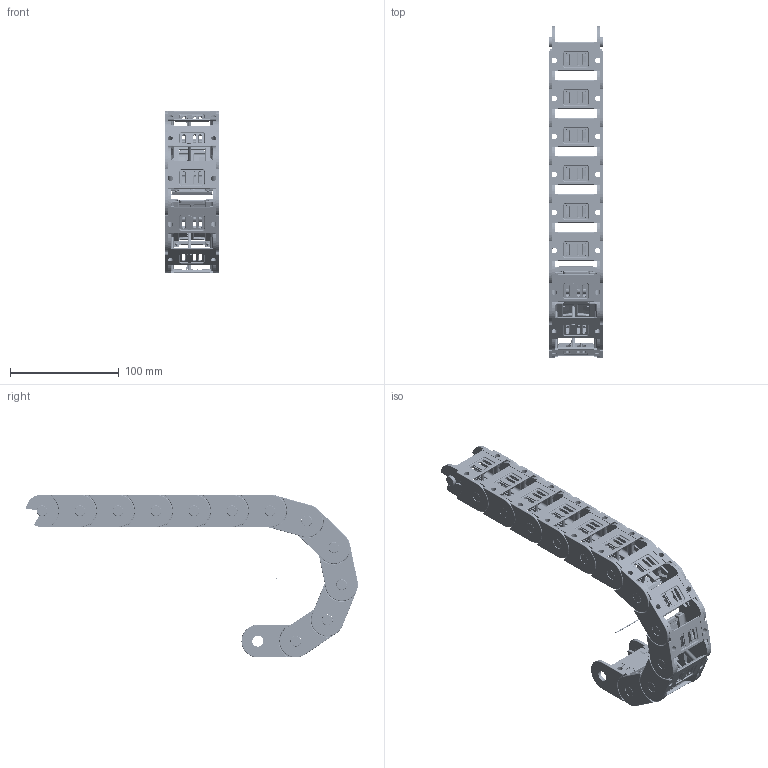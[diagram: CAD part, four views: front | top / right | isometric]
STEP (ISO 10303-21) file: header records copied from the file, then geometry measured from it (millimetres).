
FILE_DESCRIPTION((''),'2;1');
FILE_NAME('\\192.168.0.88\samba\technik\3D\STEP\KOLIBRI\KOLIBRI_30_050_0\KOLIBRI 30_050_0_R60.stp','2013-01-28T11:10:16',('Uebbing'),(''),'Autodesk Inventor 10','Autodesk Inventor 10','');
FILE_SCHEMA(('AUTOMOTIVE_DESIGN { 1 0 10303 214 1 1 1 1 }'));
Length unit declared in the file: millimetre
Products named in the file (6): KOLIBRI 30_050_0_PARAMETRISCH; Achse; Kol_30_050_0_Glied; Kol 30_050_0 Lasche; Kol 30_050_0 Klappsteg; PZ 30 Stecksteg
Assembly tree (16 placements, depth 3):
  KOLIBRI 30_050_0_PARAMETRISCH
    Achse
    Kol_30_050_0_Glied  x12
      Kol 30_050_0 Lasche
      Kol 30_050_0 Klappsteg
      PZ 30 Stecksteg
Bounding box: 50 x 305.6 x 150 mm (x, y, z)
Volume: 186957.9 mm3; surface area: 181210.3 mm2
Topology: 37 solids, 37 shells, 11487 faces, 31384 edges, 20559 vertices
Faces by surface type: plane 5906, bspline 2484, cylinder 2389, torus 540, cone 96, sphere 72
Full cylindrical faces by diameter (mm): 1 x1, 1.166 x12, 2.048 x12, 2.8 x96, 5.1 x24, 10 x24, 10.1 x24
Entity records: 33096 total; most frequent: CARTESIAN_POINT 9694, ORIENTED_EDGE 5150, DIRECTION 4256, EDGE_CURVE 2575, VERTEX_POINT 1701, VECTOR 1612, LINE 1612, AXIS2_PLACEMENT_3D 1322
